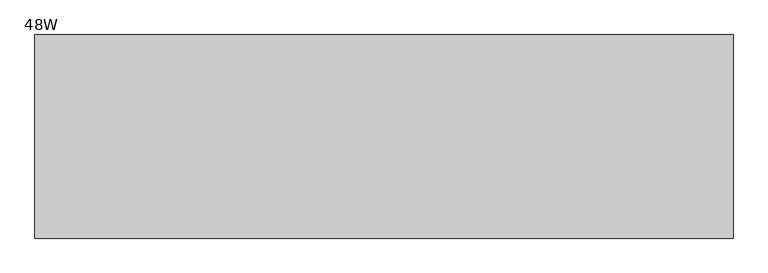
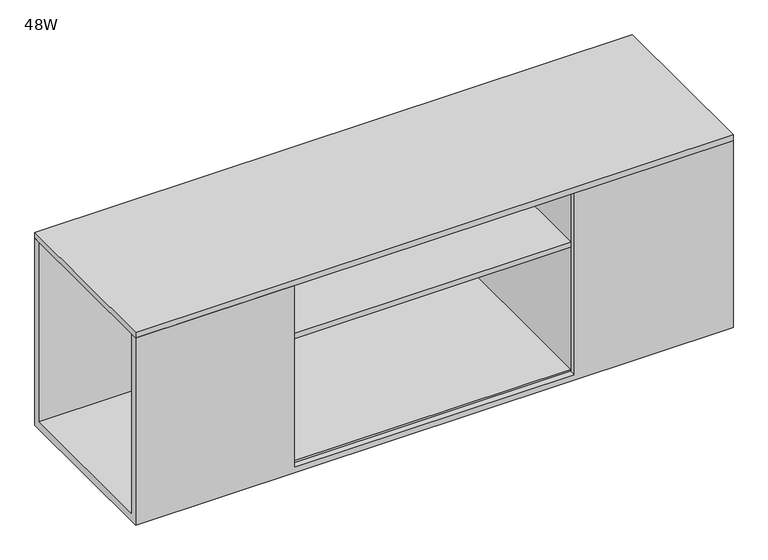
"""IFC4 building model written with IfcOpenShell, lengths in millimetres: furniture geometry, Steelcase Turnstone - Bivi - Storage - Trunk : 48W."""

from ifc_helpers import new_model, si_unit, frame, origin, place, context, project, spatial, polyline, circle_curve, outline, extrude, source, transform, mapped, element, save
from ifc_brep_helpers import plane_surface, revolved_surface, advanced_brep


def furniture_48w_504707dd(model_context):
    return source(origin(), model_context, "Body", "SolidModel", [
        extrude(outline(polyline([(1219.2, 2.4129826), (1219.2, -353.1870174), (0.0, -353.1870174), (0.0, 2.4129826), (1219.2, 2.4129826)])), frame((0.0, 0.0, 710.1957493), z_axis=(0.0, 0.0, 1.0), x_axis=(1.0, 0.0, 0.0)), (0.0, 0.0, 1.0), 12.190317),
        extrude(outline(polyline([(323.9715042, -13.081), (895.35, -13.081), (895.35, -340.1059845), (323.9715042, -340.1059845), (323.9715042, -13.081)])), frame((0.0, 0.0, 585.109162), z_axis=(0.0, 0.0, 1.0), x_axis=(1.0, 0.0, 0.0)), (0.0, 0.0, 1.0), 11.4807673),
        extrude(outline(polyline([(323.9715042, -13.081), (323.9715042, -340.1059845), (300.1217972, -340.1059845), (300.1217972, -13.081), (323.9715042, -13.081)])), frame((0.0, 0.0, 317.5), z_axis=(0.0, 0.0, 1.0), x_axis=(1.0, 0.0, 0.0)), (0.0, 0.0, 1.0), 393.3189671),
        extrude(outline(polyline([(919.199707, -13.081), (919.199707, -340.1059845), (895.35, -340.1059845), (895.35, -13.081), (919.199707, -13.081)])), frame((0.0, 0.0, 317.5), z_axis=(0.0, 0.0, 1.0), x_axis=(1.0, 0.0, 0.0)), (0.0, 0.0, 1.0), 393.3189671),
        advanced_brep(
        [(1219.2, 2.4129826, 710.8189671), (0.0, 2.4129826, 710.8189671), (0.0, -10.7950174, 710.8189671), (1219.2, -10.7950174, 710.8189671), (0.0, -353.1870174, 710.8189671), (323.9715042, -353.1870174, 710.8189671), (323.9715042, -340.1059845, 710.8189671), (0.0, -340.1059845, 710.8189671), (895.35, -353.1870174, 710.8189671), (1219.2, -353.1870174, 710.8189671), (1219.2, -340.1059845, 710.8189671), (895.35, -340.1059845, 710.8189671), (1219.2, 2.4129826, 306.4508803), (1219.2, -353.1870174, 306.4508803), (0.0, -353.1870174, 306.4508803), (0.0, 2.4129826, 306.4508803), (589.2414208, 2.4129826, 647.2628104), (630.0459185, 2.4129826, 647.2628104), (0.0, -340.1059845, 321.552397), (0.0, -10.7950174, 321.552397), (895.35, -353.1870174, 317.5), (323.9715042, -353.1870174, 317.5), (1219.2, -10.7950174, 321.552397), (1219.2, -340.1059845, 321.552397), (323.9715042, -340.1059845, 317.5), (895.35, -340.1059845, 317.5), (895.35, -340.1059845, 321.552397), (323.9715042, -340.1059845, 321.552397), (589.2414208, -10.7950174, 647.2628104), (630.0459185, -10.7950174, 647.2628104)],
        [
            (0, 1),
            (1, 2),
            (2, 3),
            (3, 0),
            (4, 5),
            (5, 6),
            (6, 7),
            (7, 4),
            (8, 9),
            (9, 10),
            (10, 11),
            (11, 8),
            (12, 13),
            (13, 14),
            (14, 15),
            (15, 12),
            (0, 12),
            (15, 1),
            (16, 17, circle_curve(frame((609.6436697, 2.4129826, 647.2628104), z_axis=(0.0, -1.0, 0.0), x_axis=(1.0, 0.0, 0.0)), 20.4022489)),
            (17, 16, circle_curve(frame((609.6436697, 2.4129826, 647.2628104), z_axis=(0.0, -1.0, 0.0), x_axis=(1.0, 0.0, 0.0)), 20.4022489)),
            (14, 4),
            (7, 18),
            (18, 19),
            (19, 2),
            (13, 9),
            (8, 20),
            (20, 21),
            (21, 5),
            (3, 22),
            (22, 23),
            (23, 10),
            (24, 25),
            (25, 26),
            (26, 27),
            (27, 24),
            (21, 24),
            (27, 6),
            (20, 25),
            (11, 26),
            (16, 28),
            (28, 29, circle_curve(frame((609.6436697, -10.7950174, 647.2628104), z_axis=(0.0, -1.0, 0.0), x_axis=(1.0, 0.0, 0.0)), 20.4022489)),
            (29, 17),
            (29, 28, circle_curve(frame((609.6436697, -10.7950174, 647.2628104), z_axis=(0.0, -1.0, 0.0), x_axis=(1.0, 0.0, 0.0)), 20.4022489)),
            (27, 18),
            (23, 26),
            (22, 19),
        ],
        [
            plane_surface(frame((0.0, 2.4129826, 710.8189671), z_axis=(0.0, 0.0, 1.0), x_axis=(-1.0, 0.0, 0.0))),
            plane_surface(frame((0.0, 2.4129826, 306.4508803), z_axis=(0.0, 0.0, -1.0), x_axis=(1.0, 0.0, 0.0))),
            plane_surface(frame((1219.2, 2.4129826, 710.8189671), z_axis=(0.0, 1.0, 0.0), x_axis=(0.0, 0.0, -1.0))),
            plane_surface(frame((0.0, 2.4129826, 710.8189671), z_axis=(-1.0, 0.0, 0.0), x_axis=(0.0, 0.0, -1.0))),
            plane_surface(frame((0.0, -353.1870174, 710.8189671), z_axis=(0.0, -1.0, 0.0), x_axis=(0.0, 0.0, -1.0))),
            plane_surface(frame((1219.2, -353.1870174, 710.8189671), z_axis=(1.0, 0.0, 0.0), x_axis=(0.0, 0.0, -1.0))),
            plane_surface(frame((323.9715042, -340.1059845, 710.8189671), z_axis=(0.0, -1.0, 0.0), x_axis=(1.0, 0.0, 0.0))),
            plane_surface(frame((323.9715042, -353.1870174, 710.8189671), z_axis=(1.0, 0.0, 0.0), x_axis=(0.0, 1.0, 0.0))),
            plane_surface(frame((323.9715042, -353.1870174, 317.5), z_axis=(0.0, 0.0, 1.0), x_axis=(0.0, 1.0, 0.0))),
            plane_surface(frame((895.35, -353.1870174, 317.5), z_axis=(-1.0, 0.0, 0.0), x_axis=(0.0, 1.0, 0.0))),
            revolved_surface(polyline([(630.0459186, -10.7950174, 647.2628104), (630.0459186, 2.4129826, 647.2628104)]), (609.6436697, 2.4129826, 647.2628104), (0.0, -1.0, 0.0)),
            plane_surface(frame((1524.0, -340.1059845, 710.8189671), z_axis=(0.0, 1.0, 0.0), x_axis=(-1.0, 0.0, 0.0))),
            plane_surface(frame((1524.0, -340.1059845, 321.552397), z_axis=(0.0, 0.0, 1.0), x_axis=(-1.0, 0.0, 0.0))),
            plane_surface(frame((1524.0, -10.7950174, 321.552397), z_axis=(0.0, -1.0, 0.0), x_axis=(-1.0, 0.0, 0.0))),
        ],
        [
            (0, [[1, 2, 3, 4]]),
            (0, [[5, 6, 7, 8]]),
            (0, [[9, 10, 11, 12]]),
            (1, [[13, 14, 15, 16]]),
            (2, [[-1, 17, -16, 18], [19, 20]]),
            (3, [[-15, 21, -8, 22, 23, 24, -2, -18]]),
            (4, [[-14, 25, -9, 26, 27, 28, -5, -21]]),
            (5, [[-13, -17, -4, 29, 30, 31, -10, -25]]),
            (6, [[32, 33, 34, 35]]),
            (7, [[36, -35, 37, -6, -28]]),
            (8, [[-32, -36, -27, 38]]),
            (9, [[-38, -26, -12, 39, -33]]),
            (10, [[-19, 40, 41, 42]]),
            (10, [[-20, -42, 43, -40]]),
            (11, [[44, -22, -7, -37]]),
            (11, [[45, -39, -11, -31]]),
            (12, [[-44, -34, -45, -30, 46, -23]]),
            (13, [[-46, -29, -3, -24], [-41, -43]]),
        ],
    ),
    ])


if __name__ == "__main__":
    model = new_model("IFC4")
    model_context = context("Model", 3, world=origin())
    ifc_project = project(units=[si_unit("LENGTHUNIT", "METRE", prefix="MILLI")], contexts=[model_context])
    site = spatial("IfcSite", under=ifc_project)
    building = spatial("IfcBuilding", under=site)
    placement = place(None, origin())
    furniture_48w_shape = furniture_48w_504707dd(model_context)
    element("IfcFurniture", 1, ObjectType="Steelcase Turnstone - Bivi - Storage - Trunk : 48W", at=placement, inside=building, context=model_context, shape_type="MappedRepresentation", body=[
        mapped(furniture_48w_shape, transform((0.0, 0.0, 0.0), x_axis=(1.0, 0.0, 0.0), y_axis=(0.0, 1.0, 0.0), z_axis=(0.0, 0.0, 1.0))),
    ])
    save(model, "model.ifc")
